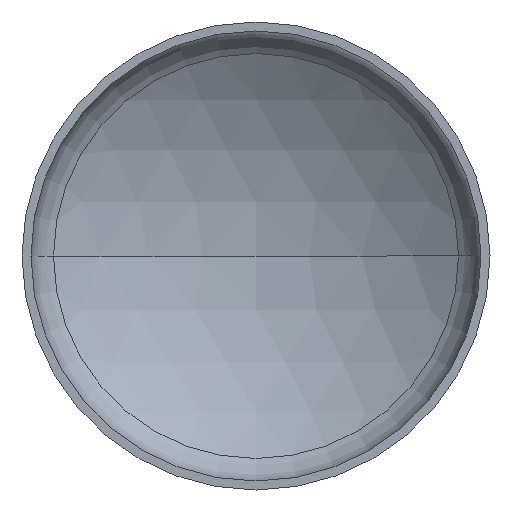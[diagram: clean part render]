
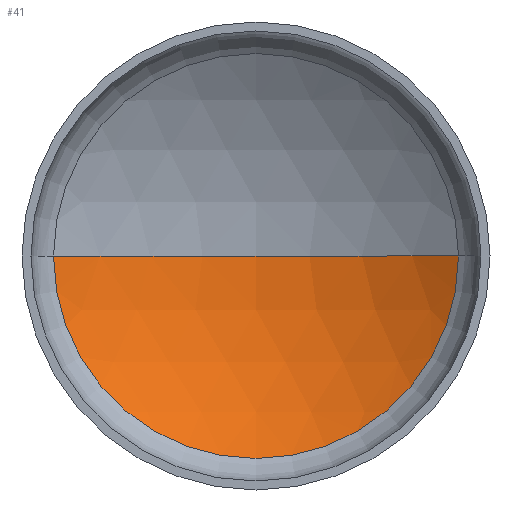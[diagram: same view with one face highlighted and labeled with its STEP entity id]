
A CAD part, front view. The second image highlights one B-rep face of the part: STEP entity #41.
In plain terms, the highlighted spherical face has radius 118.8 mm.
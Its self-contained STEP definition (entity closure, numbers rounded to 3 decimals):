
#13 = DIRECTION ( 'NONE',  ( -1., 0., 0. ) ) ;
#17 = EDGE_CURVE ( 'NONE', #282, #117, #30, .T. ) ;
#30 = CIRCLE ( 'NONE', #73, 118.8 ) ;
#41 = ADVANCED_FACE ( 'NONE', ( #96 ), #69, .F. ) ;
#66 = DIRECTION ( 'NONE',  ( 0., 0., 1. ) ) ;
#69 = SPHERICAL_SURFACE ( 'NONE', #290, 118.8 ) ;
#73 = AXIS2_PLACEMENT_3D ( 'NONE', #195, #352, #102 ) ;
#74 = CARTESIAN_POINT ( 'NONE',  ( 0., 17.972, 0. ) ) ;
#96 = FACE_OUTER_BOUND ( 'NONE', #406, .T. ) ;
#98 = ORIENTED_EDGE ( 'NONE', *, *, #378, .F. ) ;
#102 = DIRECTION ( 'NONE',  ( 1., 0., 0. ) ) ;
#117 = VERTEX_POINT ( 'NONE', #147 ) ;
#147 = CARTESIAN_POINT ( 'NONE',  ( 0., 39., 0. ) ) ;
#149 = CIRCLE ( 'NONE', #238, 67.484 ) ;
#190 = ORIENTED_EDGE ( 'NONE', *, *, #17, .T. ) ;
#195 = CARTESIAN_POINT ( 'NONE',  ( 0., -79.8, 0. ) ) ;
#196 = EDGE_CURVE ( 'NONE', #282, #226, #149, .T. ) ;
#226 = VERTEX_POINT ( 'NONE', #365 ) ;
#228 = CIRCLE ( 'NONE', #280, 118.8 ) ;
#238 = AXIS2_PLACEMENT_3D ( 'NONE', #74, #395, #396 ) ;
#244 = DIRECTION ( 'NONE',  ( 0., 0., -1. ) ) ;
#249 = DIRECTION ( 'NONE',  ( -1., 0., 0. ) ) ;
#276 = CARTESIAN_POINT ( 'NONE',  ( 0., -79.8, 0. ) ) ;
#280 = AXIS2_PLACEMENT_3D ( 'NONE', #276, #244, #249 ) ;
#282 = VERTEX_POINT ( 'NONE', #405 ) ;
#290 = AXIS2_PLACEMENT_3D ( 'NONE', #326, #66, #13 ) ;
#326 = CARTESIAN_POINT ( 'NONE',  ( 0., -79.8, 0. ) ) ;
#352 = DIRECTION ( 'NONE',  ( 0., 0., 1. ) ) ;
#365 = CARTESIAN_POINT ( 'NONE',  ( -67.484, 17.972, 0. ) ) ;
#378 = EDGE_CURVE ( 'NONE', #226, #117, #228, .T. ) ;
#386 = ORIENTED_EDGE ( 'NONE', *, *, #196, .F. ) ;
#395 = DIRECTION ( 'NONE',  ( 0., 1., 0. ) ) ;
#396 = DIRECTION ( 'NONE',  ( -1., 0., 0. ) ) ;
#405 = CARTESIAN_POINT ( 'NONE',  ( 67.484, 17.972, 0. ) ) ;
#406 = EDGE_LOOP ( 'NONE', ( #386, #190, #98 ) ) ;
